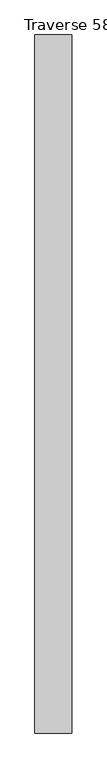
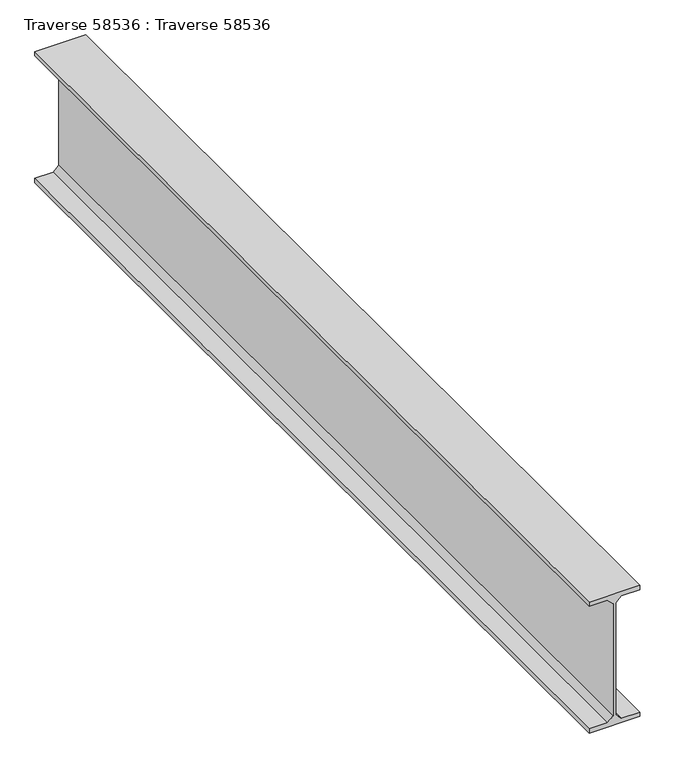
"""IFC4 building model written with IfcOpenShell, lengths in millimetres: beam geometry, Traverse 58536 : Traverse 58536."""

from ifc_helpers import new_model, si_unit, frame, origin, place, context, project, spatial, polyline, outline, extrude, source, transform, mapped, element, save


def traverse_58536_traverse_58536_0e78d85d(model_context):
    return source(origin(), model_context, "Body", "SweptSolid", [
        extrude(outline(polyline([(8011.14, 109.9999999), (8030.14, 109.9999999), (8030.14, -110.0000001), (8011.14, -110.0000001), (8011.14, -30.0000001), (7987.14, -6.0000001), (7473.14, -6.0000001), (7449.14, -30.0000001), (7449.14, -110.0000001), (7430.14, -110.0000001), (7430.14, 109.9999999), (7449.14, 109.9999999), (7449.14, 29.9999999), (7473.14, 5.9999999), (7987.14, 5.9999999), (8011.14, 29.9999999), (8011.14, 109.9999999)])), frame((0.0, -33781.0, 0.0), z_axis=(0.0, 1.0, 0.0), x_axis=(0.0, 0.0, 1.0)), (0.0, 0.0, 1.0), 4162.0),
    ])


if __name__ == "__main__":
    model = new_model("IFC4")
    model_context = context("Model", 3, world=origin())
    ifc_project = project(units=[si_unit("LENGTHUNIT", "METRE", prefix="MILLI")], contexts=[model_context])
    site = spatial("IfcSite", under=ifc_project)
    building = spatial("IfcBuilding", under=site)
    placement = place(None, origin())
    traverse_58536_traverse_58536_shape = traverse_58536_traverse_58536_0e78d85d(model_context)
    element("IfcBeam", 1, ObjectType="Traverse 58536 : Traverse 58536", at=placement, inside=building, context=model_context, shape_type="MappedRepresentation", body=[
        mapped(traverse_58536_traverse_58536_shape, transform((0.0, 0.0, 0.0), x_axis=(1.0, 0.0, 0.0), y_axis=(0.0, 1.0, 0.0), z_axis=(0.0, 0.0, 1.0))),
    ])
    save(model, "model.ifc")
